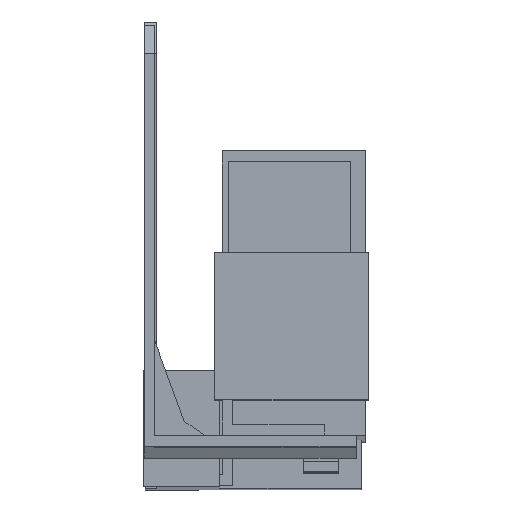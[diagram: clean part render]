
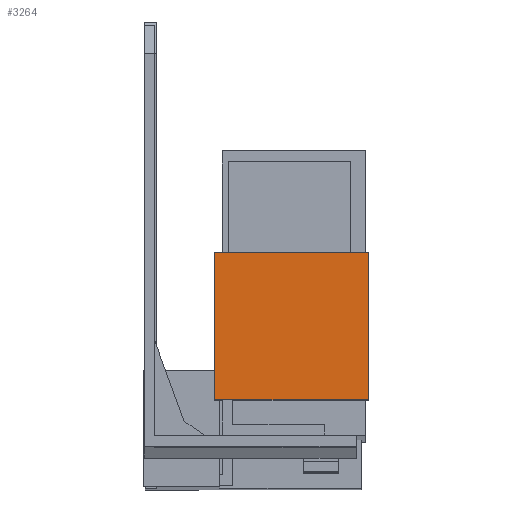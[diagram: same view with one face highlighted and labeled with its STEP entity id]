
A CAD part, front view. The second image highlights one B-rep face of the part: STEP entity #3264.
In plain terms, the highlighted planar face has unit normal (0, -1, 0.003).
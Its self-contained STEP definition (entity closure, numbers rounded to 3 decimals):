
#52 = CARTESIAN_POINT ( 'NONE',  ( 10.05, -28.952, -19.322 ) ) ;
#142 = VERTEX_POINT ( 'NONE', #655 ) ;
#144 = VERTEX_POINT ( 'NONE', #657 ) ;
#377 = CARTESIAN_POINT ( 'NONE',  ( 31.95, -28.952, -19.322 ) ) ;
#597 = VERTEX_POINT ( 'NONE', #52 ) ;
#631 = VERTEX_POINT ( 'NONE', #377 ) ;
#655 = CARTESIAN_POINT ( 'NONE',  ( 10.05, -29.009, -40.322 ) ) ;
#657 = CARTESIAN_POINT ( 'NONE',  ( 31.95, -29.009, -40.322 ) ) ;
#1321 = EDGE_LOOP ( 'NONE', ( #1551, #1552, #1595, #1656 ) ) ;
#1551 = ORIENTED_EDGE ( 'NONE', *, *, #1986, .F. ) ;
#1552 = ORIENTED_EDGE ( 'NONE', *, *, #1769, .F. ) ;
#1595 = ORIENTED_EDGE ( 'NONE', *, *, #1993, .T. ) ;
#1656 = ORIENTED_EDGE ( 'NONE', *, *, #1858, .F. ) ;
#1769 = EDGE_CURVE ( 'NONE', #142, #597, #3526, .T. ) ;
#1858 = EDGE_CURVE ( 'NONE', #631, #144, #3008, .T. ) ;
#1986 = EDGE_CURVE ( 'NONE', #597, #631, #3701, .T. ) ;
#1993 = EDGE_CURVE ( 'NONE', #142, #144, #3716, .T. ) ;
#2364 = CARTESIAN_POINT ( 'NONE',  ( 9.3, -28.952, -19.322 ) ) ;
#2368 = DIRECTION ( 'NONE',  ( 1., 0., 0. ) ) ;
#2381 = CARTESIAN_POINT ( 'NONE',  ( 9.3, -29.009, -40.322 ) ) ;
#2382 = DIRECTION ( 'NONE',  ( 1., 0., 0. ) ) ;
#2738 = PLANE ( 'NONE',  #3328 ) ;
#2741 = CARTESIAN_POINT ( 'NONE',  ( 9.3, -29.009, -40.322 ) ) ;
#2747 = DIRECTION ( 'NONE',  ( 0., -1., 0.003 ) ) ;
#2748 = DIRECTION ( 'NONE',  ( -1., 0., 0. ) ) ;
#3006 = VECTOR ( 'NONE', #4017, 1000. ) ;
#3008 = LINE ( 'NONE', #4024, #3006 ) ;
#3264 = ADVANCED_FACE ( 'NONE', ( #3991 ), #2738, .T. ) ;
#3328 = AXIS2_PLACEMENT_3D ( 'NONE', #2741, #2747, #2748 ) ;
#3525 = VECTOR ( 'NONE', #4786, 1000. ) ;
#3526 = LINE ( 'NONE', #4753, #3525 ) ;
#3701 = LINE ( 'NONE', #2364, #3706 ) ;
#3706 = VECTOR ( 'NONE', #2368, 1000. ) ;
#3716 = LINE ( 'NONE', #2381, #3718 ) ;
#3718 = VECTOR ( 'NONE', #2382, 1000. ) ;
#3991 = FACE_OUTER_BOUND ( 'NONE', #1321, .T. ) ;
#4017 = DIRECTION ( 'NONE',  ( 0., -0.003, -1. ) ) ;
#4024 = CARTESIAN_POINT ( 'NONE',  ( 31.95, -28.952, -19.322 ) ) ;
#4753 = CARTESIAN_POINT ( 'NONE',  ( 10.05, -29.009, -40.322 ) ) ;
#4786 = DIRECTION ( 'NONE',  ( 0., 0.003, 1. ) ) ;
